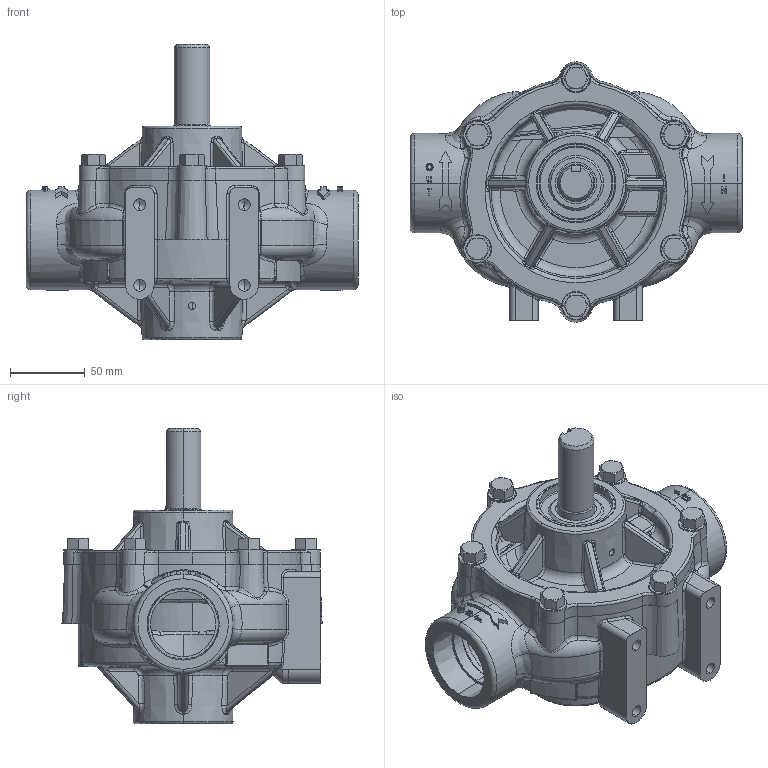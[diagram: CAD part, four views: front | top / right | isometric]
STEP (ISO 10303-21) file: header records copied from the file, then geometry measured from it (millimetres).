
FILE_DESCRIPTION (( 'STEP AP203' ), '1' );
FILE_NAME ('1502C-R.step', '2013-09-18T21:02:05', ( '' ), ( '' ), 'SwSTEP 2.0', 'SolidWorks 2012', '' );
FILE_SCHEMA (( 'CONFIG_CONTROL_DESIGN' ));
Length unit declared in the file: inch
Products named in the file (1): 1502C-R
Bounding box: 222.25 x 174.24 x 197.67 mm (x, y, z)
Volume: 1844376.8 mm3; surface area: 199343.6 mm2
Topology: 1 solids, 73 shells, 1811 faces, 4489 edges, 2703 vertices
Faces by surface type: bspline 463, cylinder 401, cone 388, plane 362, torus 175, sphere 22
Entity records: 84030 total; most frequent: CARTESIAN_POINT 45405, ORIENTED_EDGE 8878, DIRECTION 6952, EDGE_CURVE 4439, AXIS2_PLACEMENT_3D 2811, VERTEX_POINT 2695, EDGE_LOOP 1864, FACE_OUTER_BOUND 1811
